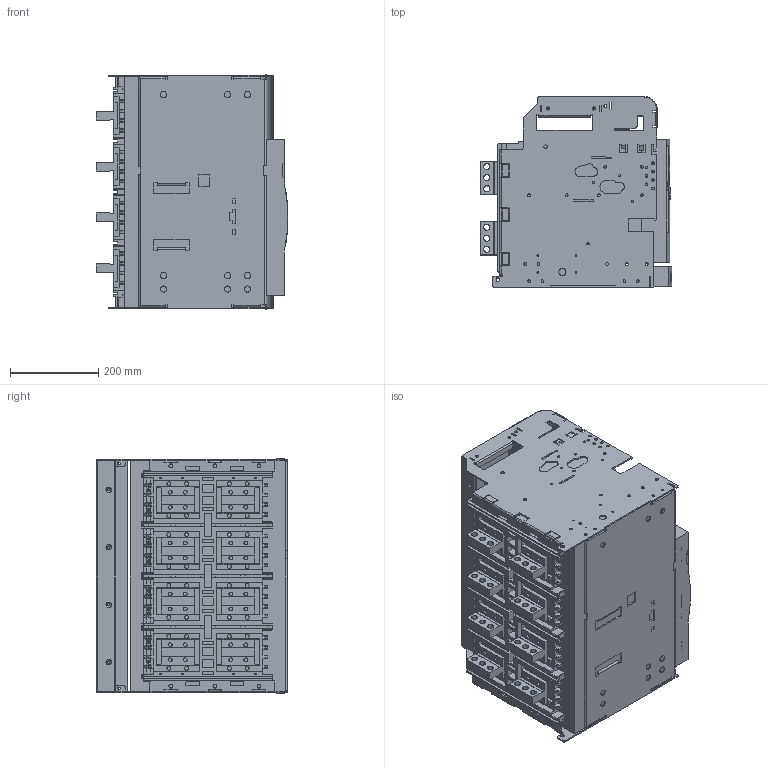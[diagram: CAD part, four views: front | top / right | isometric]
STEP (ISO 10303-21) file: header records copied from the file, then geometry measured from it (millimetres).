
FILE_DESCRIPTION (( 'STEP AP214' ), '1' );
FILE_NAME ('OptiMat A-S4-BH-2500-3200-4P-D-V.STEP', '2023-08-04T05:55:09', ( '' ), ( '' ), 'SwSTEP 2.0', 'SolidWorks 2018', '' );
FILE_SCHEMA (( 'AUTOMOTIVE_DESIGN' ));
Length unit declared in the file: millimetre
Products named in the file (1): OptiMat A-S4-BH-2500-3200-4P-D-V
Bounding box: 433.8 x 431.5 x 530 mm (x, y, z)
Volume: 59608116.2 mm3; surface area: 2838453.5 mm2
Topology: 15 solids, 44 shells, 4983 faces, 13793 edges, 8922 vertices
Faces by surface type: plane 3175, cylinder 1488, torus 169, cone 91, bspline 36, sphere 24
Entity records: 220949 total; most frequent: CARTESIAN_POINT 38132, ORIENTED_EDGE 27518, DIRECTION 26298, EDGE_CURVE 13759, VECTOR 10082, LINE 10082, VERTEX_POINT 8922, AXIS2_PLACEMENT_3D 8108
